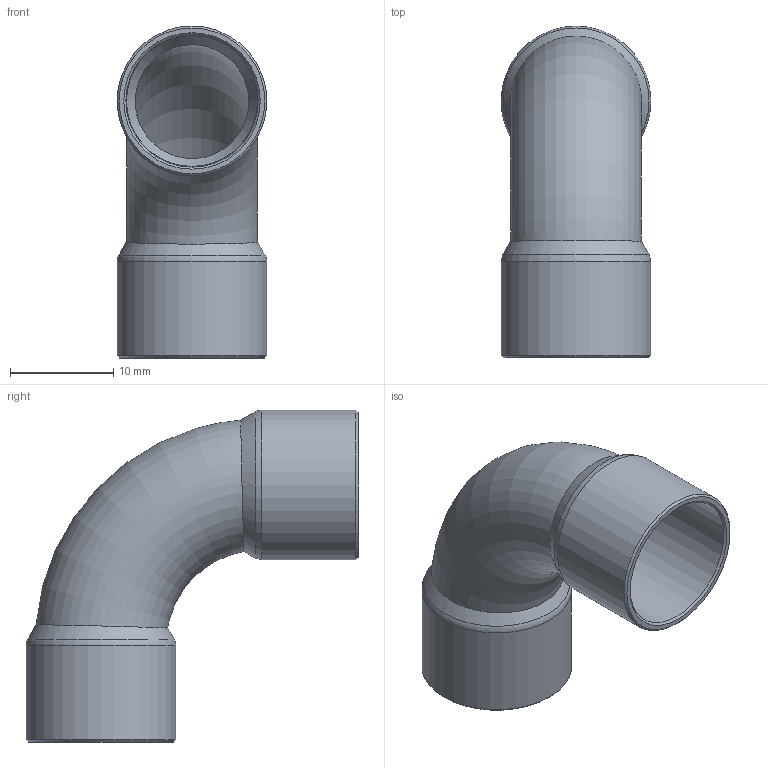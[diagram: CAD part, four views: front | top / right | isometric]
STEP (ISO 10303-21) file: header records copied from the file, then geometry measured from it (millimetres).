
FILE_DESCRIPTION((''),'2;1');
FILE_NAME('G:\SANHA-Ternat\Technik\Management\Bouwmaten + markeringen\z-maattekeningen 3D\29000s\29002A12_3d.stp','2017-07-25T09:13:29',('vdvijverd'),(''),'Autodesk Inventor 2009','Autodesk Inventor 2009','');
FILE_SCHEMA(('AUTOMOTIVE_DESIGN { 1 0 10303 214 1 1 1 1 }'));
Length unit declared in the file: millimetre
Products named in the file (1): 29002A12_3d
Bounding box: 14.52 x 32.16 x 32.16 mm (x, y, z)
Volume: 1480.5 mm3; surface area: 3544.3 mm2
Topology: 1 solids, 1 shells, 20 faces, 38 edges, 20 vertices
Faces by surface type: bspline 8, cone 6, torus 3, cylinder 2, plane 1
Full cylindrical faces by diameter (mm): 12.82 x1, 14.52 x1
Entity records: 738 total; most frequent: CARTESIAN_POINT 408, DIRECTION 58, ORIENTED_EDGE 40, EDGE_LOOP 40, AXIS2_PLACEMENT_3D 29, VERTEX_POINT 20, EDGE_CURVE 20, FACE_OUTER_BOUND 20
